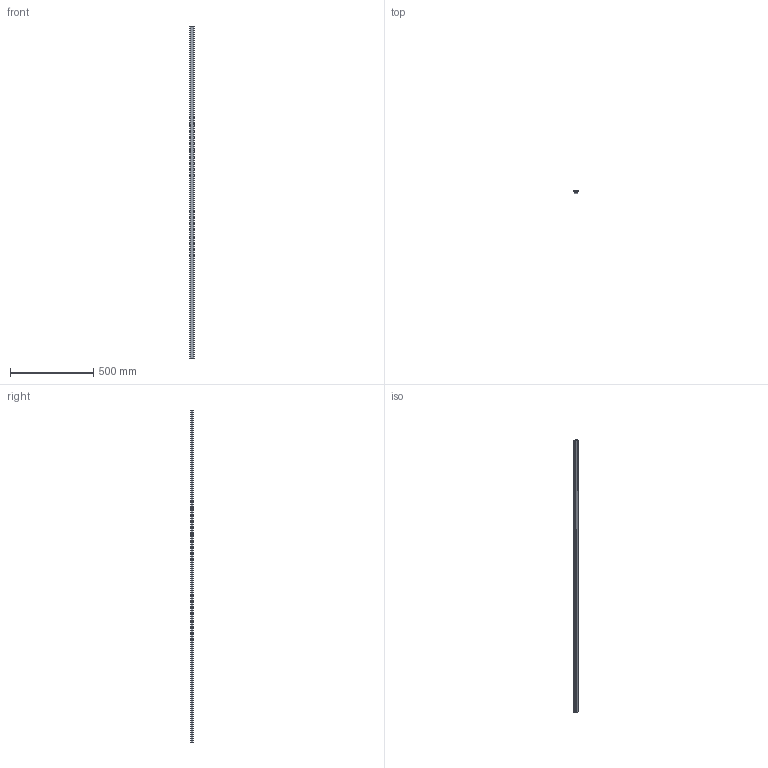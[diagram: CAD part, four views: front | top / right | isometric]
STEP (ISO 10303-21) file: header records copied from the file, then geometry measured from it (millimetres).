
FILE_DESCRIPTION (( 'STEP AP203' ), '1' );
FILE_NAME ('ChannelLine_C2_24.STEP', '2024-11-29T04:47:02', ( '' ), ( '' ), 'SwSTEP 2.0', 'SolidWorks 2023', '' );
FILE_SCHEMA (( 'CONFIG_CONTROL_DESIGN' ));
Length unit declared in the file: millimetre
Products named in the file (3): ChannelLine_C2_24; 2535501_Pr2444_Al_Profil_ChannelLine_B_L=2m; 2561501_Pr2444_K-Profil_ChannelLine_B-E_neu_Art. Nr. 25.776.98 L=2000 mm
Assembly tree (2 placements, depth 2):
  ChannelLine_C2_24
    2535501_Pr2444_Al_Profil_ChannelLine_B_L=2m
    2561501_Pr2444_K-Profil_ChannelLine_B-E_neu_Art. Nr. 25.776.98 L=2000 mm
Bounding box: 26 x 15.28 x 2000 mm (x, y, z)
Volume: 210423.3 mm3; surface area: 328006.9 mm2
Topology: 2 solids, 2 shells, 117 faces, 339 edges, 226 vertices
Faces by surface type: cylinder 72, plane 45
Entity records: 4222 total; most frequent: DIRECTION 727, CARTESIAN_POINT 687, ORIENTED_EDGE 678, EDGE_CURVE 339, AXIS2_PLACEMENT_3D 266, VERTEX_POINT 226, LINE 195, VECTOR 195
